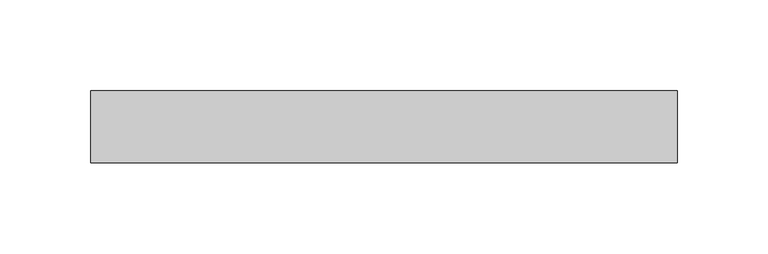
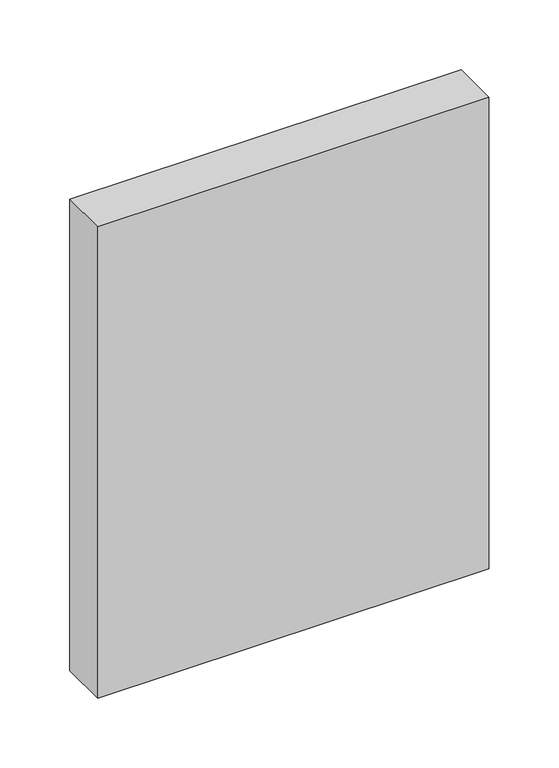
"""IFC4 building model written with IfcOpenShell, lengths in millimetres: plate geometry, Panneau système vide : Epaiss. 4cm."""

from ifc_helpers import new_model, si_unit, origin, origin_with_axes, place, context, project, spatial, polyline, outline, extrude, source, transform, mapped, element, save


def plate_c4c441d3(model_context):
    return source(origin(), model_context, "Body", "SweptSolid", [
        extrude(outline(polyline([(162.15, -20.0), (-162.15, -20.0), (-162.15, 20.0), (162.15, 20.0), (162.15, -20.0)])), origin_with_axes(), (0.0, 0.0, 1.0), 412.8823679),
    ])


if __name__ == "__main__":
    model = new_model("IFC4")
    model_context = context("Model", 3, world=origin())
    ifc_project = project(units=[si_unit("LENGTHUNIT", "METRE", prefix="MILLI")], contexts=[model_context])
    site = spatial("IfcSite", under=ifc_project)
    building = spatial("IfcBuilding", under=site)
    placement = place(None, origin())
    plate_shape = plate_c4c441d3(model_context)
    element("IfcPlate", 1, ObjectType="Panneau système vide : Epaiss. 4cm", at=placement, inside=building, context=model_context, shape_type="MappedRepresentation", body=[
        mapped(plate_shape, transform((0.0, 0.0, 0.0), x_axis=(1.0, 0.0, 0.0), y_axis=(0.0, 1.0, 0.0), z_axis=(0.0, 0.0, 1.0))),
    ])
    save(model, "model.ifc")
